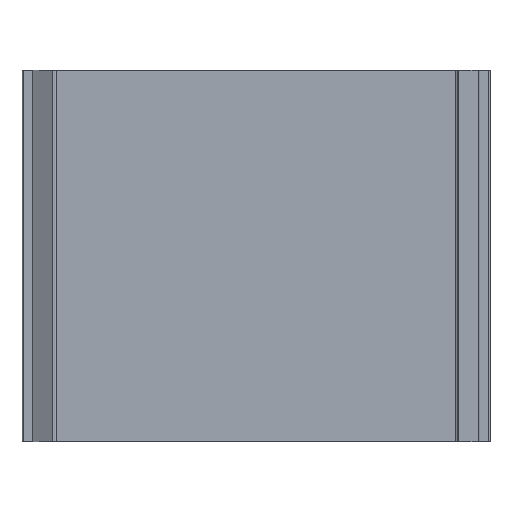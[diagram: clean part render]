
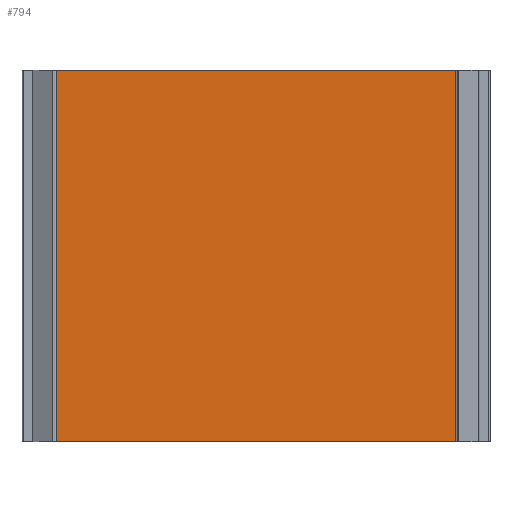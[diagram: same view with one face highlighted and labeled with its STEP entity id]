
A CAD part, front view. The second image highlights one B-rep face of the part: STEP entity #794.
In plain terms, the highlighted planar face has unit normal (0, -1, 0).
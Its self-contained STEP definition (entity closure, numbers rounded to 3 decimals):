
#176 = LINE ( 'NONE', #965, #1151 ) ;
#227 = CARTESIAN_POINT ( 'NONE',  ( 58.4, 0., 0. ) ) ;
#284 = EDGE_LOOP ( 'NONE', ( #481, #1041, #605, #746 ) ) ;
#367 = LINE ( 'NONE', #768, #623 ) ;
#462 = AXIS2_PLACEMENT_3D ( 'NONE', #465, #1073, #968 ) ;
#465 = CARTESIAN_POINT ( 'NONE',  ( 4.4, 0., 50. ) ) ;
#481 = ORIENTED_EDGE ( 'NONE', *, *, #983, .F. ) ;
#527 = DIRECTION ( 'NONE',  ( 0., 0., 1. ) ) ;
#544 = VERTEX_POINT ( 'NONE', #1055 ) ;
#554 = CARTESIAN_POINT ( 'NONE',  ( 58.4, 0., 50. ) ) ;
#595 = VERTEX_POINT ( 'NONE', #853 ) ;
#602 = LINE ( 'NONE', #843, #1096 ) ;
#605 = ORIENTED_EDGE ( 'NONE', *, *, #992, .T. ) ;
#615 = VERTEX_POINT ( 'NONE', #227 ) ;
#623 = VECTOR ( 'NONE', #839, 1000. ) ;
#640 = CARTESIAN_POINT ( 'NONE',  ( 58.4, 0., 50. ) ) ;
#746 = ORIENTED_EDGE ( 'NONE', *, *, #998, .T. ) ;
#768 = CARTESIAN_POINT ( 'NONE',  ( 4.4, 0., 0. ) ) ;
#786 = LINE ( 'NONE', #554, #812 ) ;
#794 = ADVANCED_FACE ( 'NONE', ( #1114 ), #1127, .F. ) ;
#812 = VECTOR ( 'NONE', #527, 1000. ) ;
#819 = VERTEX_POINT ( 'NONE', #640 ) ;
#839 = DIRECTION ( 'NONE',  ( 1., 0., 0. ) ) ;
#843 = CARTESIAN_POINT ( 'NONE',  ( 4.6, 0., 0. ) ) ;
#853 = CARTESIAN_POINT ( 'NONE',  ( 4.6, 0., 50. ) ) ;
#895 = DIRECTION ( 'NONE',  ( 0., 0., -1. ) ) ;
#965 = CARTESIAN_POINT ( 'NONE',  ( 4.4, 0., 50. ) ) ;
#968 = DIRECTION ( 'NONE',  ( 0., 0., 1. ) ) ;
#973 = DIRECTION ( 'NONE',  ( 1., 0., 0. ) ) ;
#983 = EDGE_CURVE ( 'NONE', #595, #819, #176, .T. ) ;
#990 = EDGE_CURVE ( 'NONE', #595, #544, #602, .T. ) ;
#992 = EDGE_CURVE ( 'NONE', #544, #615, #367, .T. ) ;
#998 = EDGE_CURVE ( 'NONE', #615, #819, #786, .T. ) ;
#1041 = ORIENTED_EDGE ( 'NONE', *, *, #990, .T. ) ;
#1055 = CARTESIAN_POINT ( 'NONE',  ( 4.6, 0., 0. ) ) ;
#1073 = DIRECTION ( 'NONE',  ( 0., 1., 0. ) ) ;
#1096 = VECTOR ( 'NONE', #895, 1000. ) ;
#1114 = FACE_OUTER_BOUND ( 'NONE', #284, .T. ) ;
#1127 = PLANE ( 'NONE',  #462 ) ;
#1151 = VECTOR ( 'NONE', #973, 1000. ) ;
